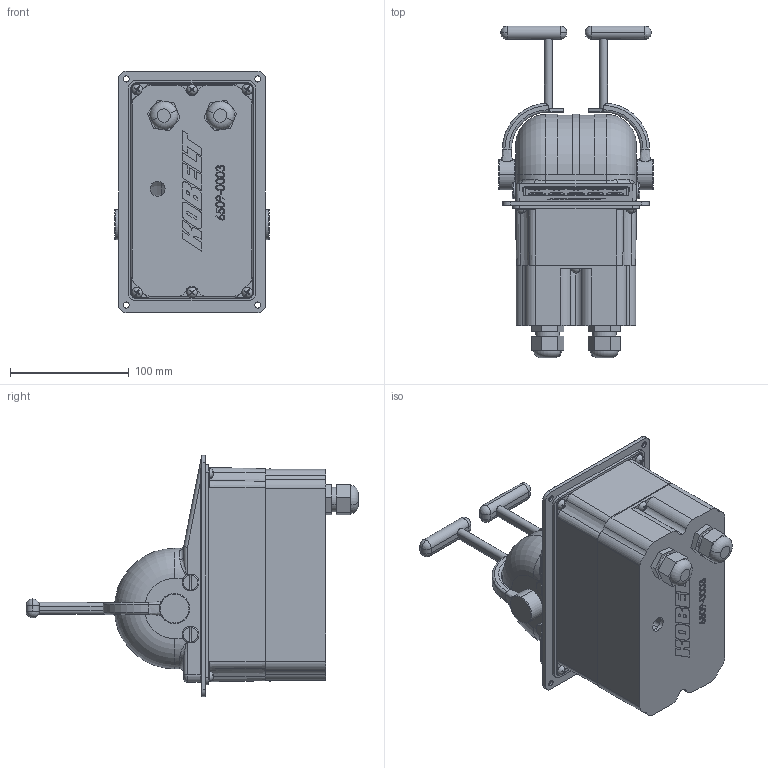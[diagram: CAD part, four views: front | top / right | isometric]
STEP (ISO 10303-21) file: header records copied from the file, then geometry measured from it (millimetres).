
FILE_DESCRIPTION (( 'STEP AP214' ), '1' );
FILE_NAME ('6504-TB.STEP', '2025-07-18T21:27:10', ( '' ), ( '' ), 'SwSTEP 2.0', 'SolidWorks 2023', '' );
FILE_SCHEMA (( 'AUTOMOTIVE_DESIGN' ));
Length unit declared in the file: inch
Products named in the file (1): 6504-TB
Bounding box: 130.56 x 279.78 x 203.2 mm (x, y, z)
Surface area: 170879.7 mm2 (no closed solid volume)
Topology: 0 solids, 80 shells, 729 faces, 4080 edges, 3357 vertices
Faces by surface type: plane 415, cylinder 177, bspline 44, torus 38, cone 30, sphere 25
Entity records: 50752 total; most frequent: CARTESIAN_POINT 20670, DIRECTION 5853, ORIENTED_EDGE 5402, EDGE_CURVE 4060, VERTEX_POINT 3356, VECTOR 2167, LINE 2167, AXIS2_PLACEMENT_3D 1843
